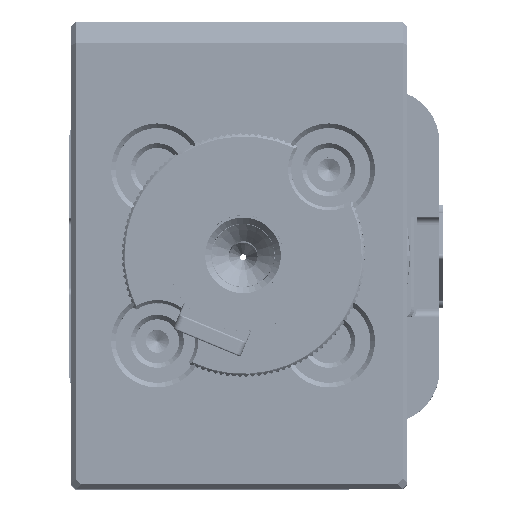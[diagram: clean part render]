
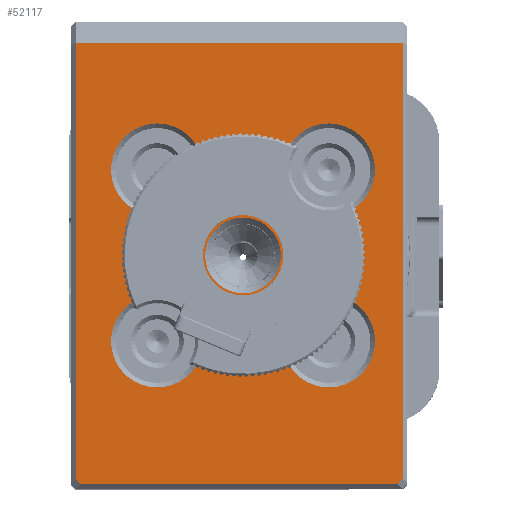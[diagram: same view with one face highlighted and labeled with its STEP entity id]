
A CAD part, top view. The second image highlights one B-rep face of the part: STEP entity #52117.
In plain terms, the highlighted planar face has unit normal (0, 0, 1).
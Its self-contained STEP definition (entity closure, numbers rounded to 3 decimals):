
#6017=FACE_BOUND('',#10360,.T.);
#6018=FACE_BOUND('',#10361,.T.);
#6019=FACE_BOUND('',#10362,.T.);
#6020=FACE_BOUND('',#10363,.T.);
#6021=FACE_BOUND('',#10364,.T.);
#6211=PLANE('',#55020);
#7504=FACE_OUTER_BOUND('',#10359,.T.);
#10359=EDGE_LOOP('',(#35796,#35797,#35798,#35799,#35800,#35801));
#10360=EDGE_LOOP('',(#35802));
#10361=EDGE_LOOP('',(#35803));
#10362=EDGE_LOOP('',(#35804));
#10363=EDGE_LOOP('',(#35805));
#10364=EDGE_LOOP('',(#35806));
#13408=LINE('',#72409,#17096);
#13409=LINE('',#72411,#17097);
#13410=LINE('',#72413,#17098);
#13411=LINE('',#72415,#17099);
#13412=LINE('',#72417,#17100);
#13413=LINE('',#72418,#17101);
#17096=VECTOR('',#59593,28.733);
#17097=VECTOR('',#59594,0.52);
#17098=VECTOR('',#59595,20.855);
#17099=VECTOR('',#59596,0.52);
#17100=VECTOR('',#59597,28.733);
#17101=VECTOR('',#59598,21.59);
#20783=CIRCLE('',#55018,3.05);
#20785=CIRCLE('',#55021,3.05);
#20786=CIRCLE('',#55022,3.05);
#20787=CIRCLE('',#55023,2.5);
#20788=CIRCLE('',#55024,3.05);
#22459=VERTEX_POINT('',#72401);
#22461=VERTEX_POINT('',#72407);
#22462=VERTEX_POINT('',#72408);
#22463=VERTEX_POINT('',#72410);
#22464=VERTEX_POINT('',#72412);
#22465=VERTEX_POINT('',#72414);
#22466=VERTEX_POINT('',#72416);
#22467=VERTEX_POINT('',#72419);
#22468=VERTEX_POINT('',#72421);
#22469=VERTEX_POINT('',#72423);
#22470=VERTEX_POINT('',#72425);
#27721=EDGE_CURVE('',#22459,#22459,#20783,.T.);
#27724=EDGE_CURVE('',#22461,#22462,#13408,.T.);
#27725=EDGE_CURVE('',#22462,#22463,#13409,.T.);
#27726=EDGE_CURVE('',#22463,#22464,#13410,.T.);
#27727=EDGE_CURVE('',#22464,#22465,#13411,.T.);
#27728=EDGE_CURVE('',#22465,#22466,#13412,.T.);
#27729=EDGE_CURVE('',#22466,#22461,#13413,.T.);
#27730=EDGE_CURVE('',#22467,#22467,#20785,.T.);
#27731=EDGE_CURVE('',#22468,#22468,#20786,.T.);
#27732=EDGE_CURVE('',#22469,#22469,#20787,.T.);
#27733=EDGE_CURVE('',#22470,#22470,#20788,.T.);
#35796=ORIENTED_EDGE('',*,*,#27724,.T.);
#35797=ORIENTED_EDGE('',*,*,#27725,.T.);
#35798=ORIENTED_EDGE('',*,*,#27726,.T.);
#35799=ORIENTED_EDGE('',*,*,#27727,.T.);
#35800=ORIENTED_EDGE('',*,*,#27728,.T.);
#35801=ORIENTED_EDGE('',*,*,#27729,.T.);
#35802=ORIENTED_EDGE('',*,*,#27730,.F.);
#35803=ORIENTED_EDGE('',*,*,#27731,.F.);
#35804=ORIENTED_EDGE('',*,*,#27732,.T.);
#35805=ORIENTED_EDGE('',*,*,#27733,.F.);
#35806=ORIENTED_EDGE('',*,*,#27721,.F.);
#52117=ADVANCED_FACE('',(#7504,#6017,#6018,#6019,#6020,#6021),#6211,.F.);
#55018=AXIS2_PLACEMENT_3D('',#72402,#59586,#59587);
#55020=AXIS2_PLACEMENT_3D('',#72406,#59591,#59592);
#55021=AXIS2_PLACEMENT_3D('',#72420,#59599,#59600);
#55022=AXIS2_PLACEMENT_3D('',#72422,#59601,#59602);
#55023=AXIS2_PLACEMENT_3D('',#72424,#59603,#59604);
#55024=AXIS2_PLACEMENT_3D('',#72426,#59605,#59606);
#59586=DIRECTION('center_axis',(0.,0.,1.));
#59587=DIRECTION('ref_axis',(1.,0.,0.));
#59591=DIRECTION('center_axis',(0.,0.,-1.));
#59592=DIRECTION('ref_axis',(1.,0.,0.));
#59593=DIRECTION('',(1.,0.,0.));
#59594=DIRECTION('',(0.707,0.707,0.));
#59595=DIRECTION('',(0.,1.,0.));
#59596=DIRECTION('',(-0.707,0.707,0.));
#59597=DIRECTION('',(-1.,0.,0.));
#59598=DIRECTION('',(0.,-1.,0.));
#59599=DIRECTION('center_axis',(0.,0.,1.));
#59600=DIRECTION('ref_axis',(1.,0.,0.));
#59601=DIRECTION('center_axis',(0.,0.,1.));
#59602=DIRECTION('ref_axis',(1.,0.,0.));
#59603=DIRECTION('center_axis',(0.,0.,-1.));
#59604=DIRECTION('ref_axis',(1.,0.,0.));
#59605=DIRECTION('center_axis',(0.,0.,1.));
#59606=DIRECTION('ref_axis',(1.,0.,0.));
#72401=CARTESIAN_POINT('',(2.607,96.096,65.25));
#72402=CARTESIAN_POINT('Origin',(5.657,96.096,65.25));
#72406=CARTESIAN_POINT('Origin',(-14.,134.817,65.25));
#72407=CARTESIAN_POINT('',(-14.,79.398,65.25));
#72408=CARTESIAN_POINT('',(14.733,79.398,65.25));
#72409=CARTESIAN_POINT('',(-14.,79.398,65.25));
#72410=CARTESIAN_POINT('',(15.1,79.765,65.25));
#72411=CARTESIAN_POINT('',(14.733,79.398,65.25));
#72412=CARTESIAN_POINT('',(15.1,100.62,65.25));
#72413=CARTESIAN_POINT('',(15.1,79.765,65.25));
#72414=CARTESIAN_POINT('',(14.733,100.988,65.25));
#72415=CARTESIAN_POINT('',(15.1,100.62,65.25));
#72416=CARTESIAN_POINT('',(-14.,100.988,65.25));
#72417=CARTESIAN_POINT('',(14.733,100.988,65.25));
#72418=CARTESIAN_POINT('',(-14.,100.988,65.25));
#72419=CARTESIAN_POINT('',(-8.706,96.096,65.25));
#72420=CARTESIAN_POINT('Origin',(-5.656,96.096,65.25));
#72421=CARTESIAN_POINT('',(2.607,84.783,65.25));
#72422=CARTESIAN_POINT('Origin',(5.657,84.783,65.25));
#72423=CARTESIAN_POINT('',(0.,87.94,65.25));
#72424=CARTESIAN_POINT('Origin',(0.,90.44,65.25));
#72425=CARTESIAN_POINT('',(-8.706,84.783,65.25));
#72426=CARTESIAN_POINT('Origin',(-5.656,84.783,65.25));
